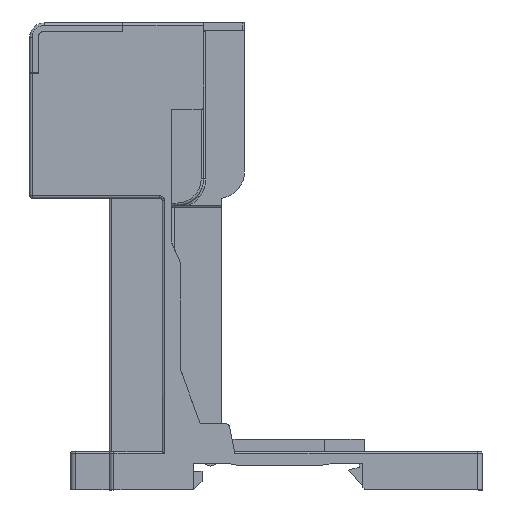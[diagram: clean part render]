
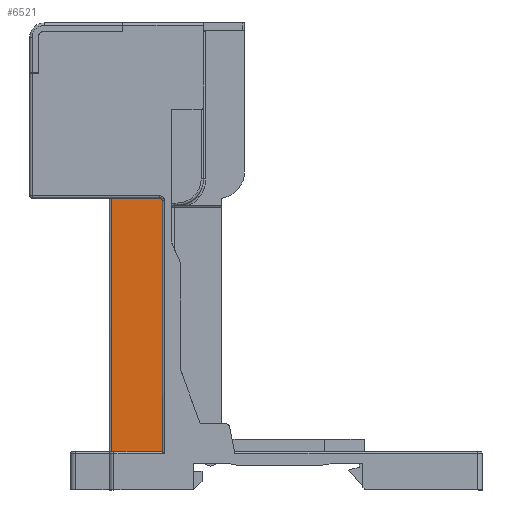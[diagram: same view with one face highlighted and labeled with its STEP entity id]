
A CAD part, left-side view. The second image highlights one B-rep face of the part: STEP entity #6521.
In plain terms, the highlighted planar face has unit normal (-1, 0, 0) as drawn and (0, 1, 0) by its records, which use the part's own axes.
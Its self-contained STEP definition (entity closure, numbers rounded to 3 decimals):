
#392 = CARTESIAN_POINT ( 'NONE',  ( -2., 17.2, -52.1 ) ) ;
#964 = CIRCLE ( 'NONE', #11539, 0.5 ) ;
#998 = EDGE_CURVE ( 'NONE', #33172, #35123, #6639, .T. ) ;
#1079 = EDGE_CURVE ( 'NONE', #35123, #7229, #8289, .T. ) ;
#1374 = CARTESIAN_POINT ( 'NONE',  ( -12.5, 17.2, 0. ) ) ;
#1550 = VECTOR ( 'NONE', #44352, 1000. ) ;
#5953 = FACE_OUTER_BOUND ( 'NONE', #56174, .T. ) ;
#6521 = ADVANCED_FACE ( 'NONE', ( #5953 ), #20852, .F. ) ;
#6639 = LINE ( 'NONE', #1374, #7866 ) ;
#7229 = VERTEX_POINT ( 'NONE', #19490 ) ;
#7866 = VECTOR ( 'NONE', #57293, 1000. ) ;
#8289 = LINE ( 'NONE', #18236, #1550 ) ;
#9668 = LINE ( 'NONE', #392, #19941 ) ;
#10505 = ORIENTED_EDGE ( 'NONE', *, *, #1079, .F. ) ;
#10920 = CARTESIAN_POINT ( 'NONE',  ( -21., 17.2, -52.6 ) ) ;
#11539 = AXIS2_PLACEMENT_3D ( 'NONE', #19234, #39398, #12635 ) ;
#11581 = DIRECTION ( 'NONE',  ( 0., -1., 0. ) ) ;
#12635 = DIRECTION ( 'NONE',  ( 1., 0., 0. ) ) ;
#16017 = VECTOR ( 'NONE', #43059, 1000. ) ;
#16042 = ORIENTED_EDGE ( 'NONE', *, *, #47644, .F. ) ;
#18236 = CARTESIAN_POINT ( 'NONE',  ( -12.5, 17.2, -52.6 ) ) ;
#19234 = CARTESIAN_POINT ( 'NONE',  ( -2.5, 17.2, -52.1 ) ) ;
#19490 = CARTESIAN_POINT ( 'NONE',  ( -2.5, 17.2, -52.6 ) ) ;
#19941 = VECTOR ( 'NONE', #20889, 1000. ) ;
#20852 = PLANE ( 'NONE',  #56248 ) ;
#20889 = DIRECTION ( 'NONE',  ( 0., 0., 1. ) ) ;
#23963 = ORIENTED_EDGE ( 'NONE', *, *, #63849, .T. ) ;
#31812 = LINE ( 'NONE', #52328, #16017 ) ;
#33172 = VERTEX_POINT ( 'NONE', #43720 ) ;
#35123 = VERTEX_POINT ( 'NONE', #47943 ) ;
#39398 = DIRECTION ( 'NONE',  ( 0., 1., 0. ) ) ;
#39937 = ORIENTED_EDGE ( 'NONE', *, *, #58550, .T. ) ;
#40145 = VERTEX_POINT ( 'NONE', #53117 ) ;
#41676 = DIRECTION ( 'NONE',  ( 0., 0., -1. ) ) ;
#43059 = DIRECTION ( 'NONE',  ( 1., 0., 0. ) ) ;
#43356 = CARTESIAN_POINT ( 'NONE',  ( -2., 17.2, 0. ) ) ;
#43720 = CARTESIAN_POINT ( 'NONE',  ( -12.5, 17.2, 0. ) ) ;
#44352 = DIRECTION ( 'NONE',  ( 1., 0., 0. ) ) ;
#44485 = VERTEX_POINT ( 'NONE', #43356 ) ;
#47644 = EDGE_CURVE ( 'NONE', #40145, #44485, #9668, .T. ) ;
#47943 = CARTESIAN_POINT ( 'NONE',  ( -12.5, 17.2, -52.6 ) ) ;
#52328 = CARTESIAN_POINT ( 'NONE',  ( -12.5, 17.2, 0. ) ) ;
#53117 = CARTESIAN_POINT ( 'NONE',  ( -2., 17.2, -52.1 ) ) ;
#54928 = ORIENTED_EDGE ( 'NONE', *, *, #998, .F. ) ;
#56174 = EDGE_LOOP ( 'NONE', ( #23963, #16042, #39937, #10505, #54928 ) ) ;
#56248 = AXIS2_PLACEMENT_3D ( 'NONE', #10920, #11581, #41676 ) ;
#57293 = DIRECTION ( 'NONE',  ( 0., 0., -1. ) ) ;
#58550 = EDGE_CURVE ( 'NONE', #40145, #7229, #964, .T. ) ;
#63849 = EDGE_CURVE ( 'NONE', #33172, #44485, #31812, .T. ) ;
